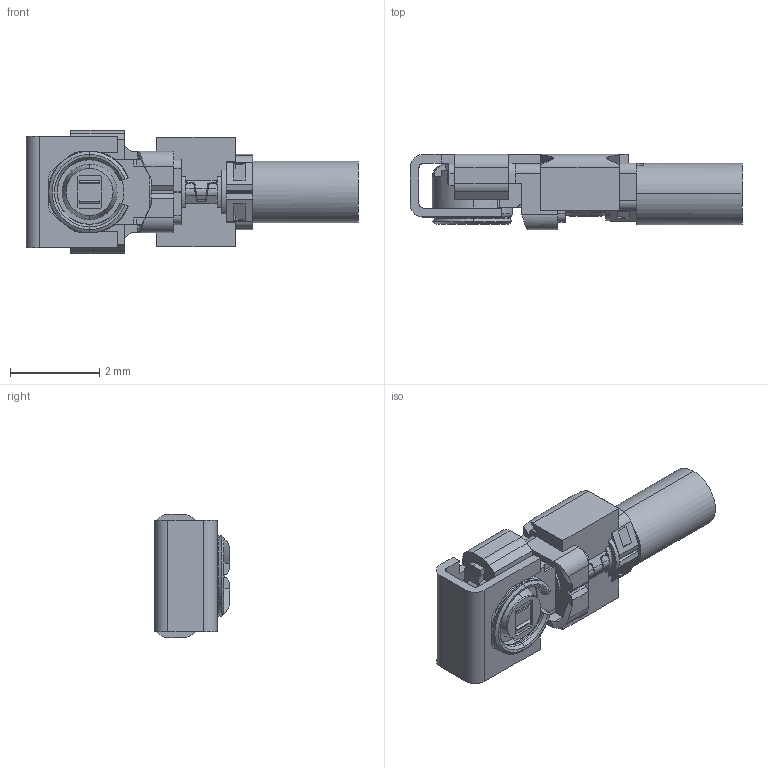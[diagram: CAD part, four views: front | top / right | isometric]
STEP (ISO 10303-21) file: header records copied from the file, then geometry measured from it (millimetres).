
FILE_DESCRIPTION (( 'STEP AP203' ), '1' );
FILE_NAME ('20632-001R-37+3615-000xC (LOCK) STEP R1R4 ALL.STEP', '2023-11-08T00:07:43', ( '' ), ( '' ), 'SwSTEP 2.0', 'SolidWorks 2023', '' );
FILE_SCHEMA (( 'CONFIG_CONTROL_DESIGN' ));
Length unit declared in the file: millimetre
Products named in the file (1): 20632-001R-37+3615-000xC (LOCK) STEP R1R4 ALL
Bounding box: 7.42 x 1.68 x 2.75 mm (x, y, z)
Volume: 17.5 mm3; surface area: 73.2 mm2
Topology: 1 solids, 1 shells, 362 faces, 1046 edges, 681 vertices
Faces by surface type: plane 229, cylinder 97, cone 19, torus 13, bspline 4
Entity records: 12591 total; most frequent: CARTESIAN_POINT 3056, ORIENTED_EDGE 2092, DIRECTION 1880, EDGE_CURVE 1046, VECTOR 702, LINE 702, VERTEX_POINT 681, AXIS2_PLACEMENT_3D 589
